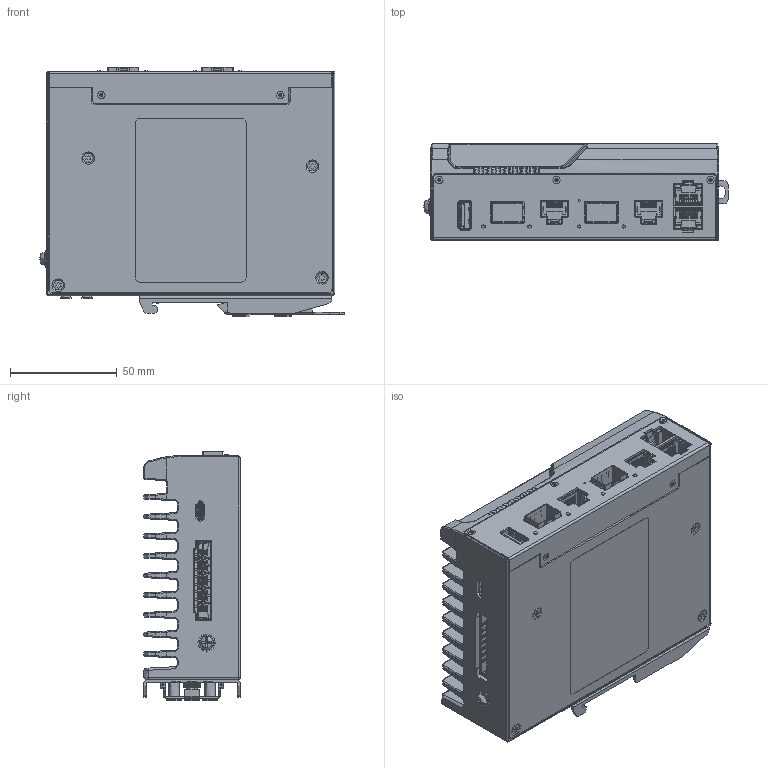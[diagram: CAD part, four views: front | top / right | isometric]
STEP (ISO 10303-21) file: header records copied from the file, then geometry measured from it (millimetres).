
FILE_DESCRIPTION((''),'2;1');
FILE_NAME('00_EDR_G9004_DINRAIL_ASM','2024-04-29T12:02:36',('Kelvin_Huang'),('PTC'),'CREO PARAMETRIC BY PTC INC, 2023072','CREO PARAMETRIC BY PTC INC, 2023072','');
FILE_SCHEMA(('AUTOMOTIVE_DESIGN { 1 0 10303 214 1 1 1 1 }'));
Products named in the file (131): EDR_G9004_TOP_COVER_SOLID_1; EDR_G9004_TOP_COVER_QUILT_1; EDR_G9004_TOP_COVER_QUILT_2; EDR_G9004_TOP_COVER_QUILT_3; EDR_G9004_TOP_COVER_QUILT_4; EDR_G9004_TOP_COVER_QUILT_5; EDR_G9004_TOP_COVER_QUILT_6; EDR_G9004_TOP_COVER_QUILT_7; EDR_G9004_TOP_COVER_QUILT_8; EDR_G9004_TOP_COVER_QUILT_9; EDR_G9004_LED_LIGHT_BAR-40054; EDR_G9004_LED_LIGHT_BAR-44011; EDR_G9004_RUBBER_LED; EDR_G9004_8PIN_DINKLE; EDR_G9004_LED_SMD-69075; EDR_G9004_LED_SMD-69398; EDR_G9004_LED_SMD-69721; EDR_G9004_LED_SMD-70044; EDR_G9004_LED_SMD-70367; EDR_G9004_LED_SMD-70690; EDR_G9004_LED_SMD-71013; EDR_G9004_LED_SMD-71336; EDR_G9004_1109020000110_SW; EDR_G9004_TYPEC_0S02_SOLID_1; EDR_G9004_TYPEC_0S02_QUILT_1; EDR_G9004_TYPEC_0S02_QUILT_2; EDR_G9004_TYPEC_0S02_QUILT_3; EDR_G9004_TYPEC_0S02_QUILT_4; EDR_G9004_TYPEC_0S02_QUILT_5; EDR_G9004_TYPEC_0S02_QUILT_6; EDR_G9004_TYPEC_0S02_QUILT_7; EDR_G9004_TYPEC_0S02_QUILT_8; EDR_G9004_TYPEC_0S02_QUILT_9; EDR_G9004_TYPEC_0S02_QUILT_10; EDR_G9004_TYPEC_0S02_QUILT_11; EDR_G9004_TYPEC_0S02_QUILT_12; EDR_G9004_TYPEC_0S02_QUILT_13; T55M30E43-1402310010333; PCB-12_M4; EDR_G9010_USB_23XX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
Assembly tree (130 placements, depth 3):
  00_EDR_G9004_DINRAIL_ASM
    00_EDR_G9004_ASM
      EDR_G9004_TOP_COVER_SOLID_1
      EDR_G9004_TOP_COVER_QUILT_1
      EDR_G9004_TOP_COVER_QUILT_2
      EDR_G9004_TOP_COVER_QUILT_3
      EDR_G9004_TOP_COVER_QUILT_4
      EDR_G9004_TOP_COVER_QUILT_5
      EDR_G9004_TOP_COVER_QUILT_6
      EDR_G9004_TOP_COVER_QUILT_7
      EDR_G9004_TOP_COVER_QUILT_8
      EDR_G9004_TOP_COVER_QUILT_9
      EDR_G9004_LED_LIGHT_BAR-40054
      EDR_G9004_LED_LIGHT_BAR-44011
      EDR_G9004_RUBBER_LED
      EDR_G9004_8PIN_DINKLE
      EDR_G9004_LED_SMD-69075
      EDR_G9004_LED_SMD-69398
      EDR_G9004_LED_SMD-69721
      EDR_G9004_LED_SMD-70044
      EDR_G9004_LED_SMD-70367
      EDR_G9004_LED_SMD-70690
      EDR_G9004_LED_SMD-71013
      EDR_G9004_LED_SMD-71336
      EDR_G9004_1109020000110_SW
      EDR_G9004_TYPEC_0S02_SOLID_1
      EDR_G9004_TYPEC_0S02_QUILT_1
      EDR_G9004_TYPEC_0S02_QUILT_2
      EDR_G9004_TYPEC_0S02_QUILT_3
      EDR_G9004_TYPEC_0S02_QUILT_4
      EDR_G9004_TYPEC_0S02_QUILT_5
      EDR_G9004_TYPEC_0S02_QUILT_6
      EDR_G9004_TYPEC_0S02_QUILT_7
      EDR_G9004_TYPEC_0S02_QUILT_8
      EDR_G9004_TYPEC_0S02_QUILT_9
      EDR_G9004_TYPEC_0S02_QUILT_10
      EDR_G9004_TYPEC_0S02_QUILT_11
      EDR_G9004_TYPEC_0S02_QUILT_12
      EDR_G9004_TYPEC_0S02_QUILT_13
      T55M30E43-1402310010333
      PCB-12_M4
      EDR_G9010_USB_23XX
      EDR_G9004_LED-137794
      EDR_G9004_1126017000800_-139482
      EDR_G9004_LED-143215
      EDR_G9004_RJ1401-88NKX9R-144903
      EDR_G9004_LED-155770
      EDR_G9004_1126017000800_-157458
      EDR_G9004_LED-161191
      EDR_G9004_RJ1401-88NKX9R-162879
      EDR_G9004_M1A-8302X1_SOLID_1
      EDR_G9004_M1A-8302X1_SOLID_2
      EDR_G9004_M1A-8302X1_SOLID_3
      EDR_G9004_M1A-8302X1_SOLID_4
      EDR_G9004_M1A-8302X1_SOLID_5
      EDR_G9004_M1A-8302X1_SOLID_6
      EDR_G9004_M1A-8302X1_SOLID_7
      EDR_G9004_M1A-8302X1_SOLID_8
      EDR_G9004_M1A-8302X1_SOLID_9
      EDR_G9004_M1A-8302X1_SOLID_10
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Bounding box: 142.55 x 45 x 116.9 mm (x, y, z)
Topology: 78 solids, 150 shells, 13168 faces, 36472 edges, 23546 vertices
Faces by surface type: plane 8335, cylinder 3388, bspline 553, torus 438, cone 332, sphere 100, extrusion 18, revolution 4
Full cylindrical faces by diameter (mm): 0.1 x1, 0.7 x2, 1.2 x2
Entity records: 519532 total; most frequent: CARTESIAN_POINT 128058, ORIENTED_EDGE 72531, DIRECTION 68321, EDGE_CURVE 36447, VECTOR 25891, LINE 25873, VERTEX_POINT 23758, AXIS2_PLACEMENT_3D 21017
